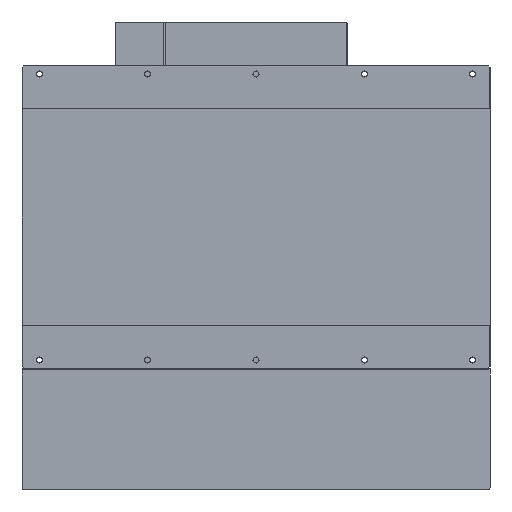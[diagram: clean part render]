
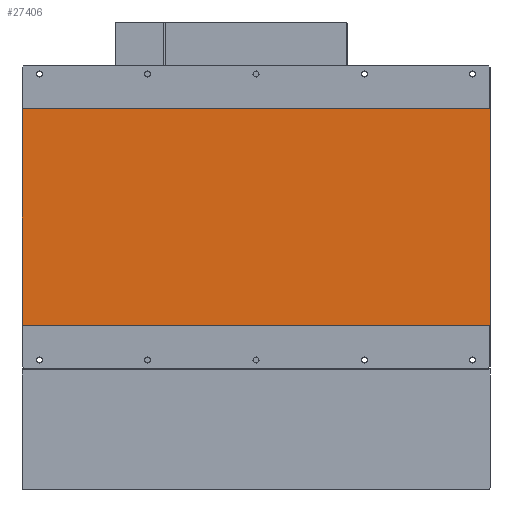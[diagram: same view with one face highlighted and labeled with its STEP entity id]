
A CAD part, front view. The second image highlights one B-rep face of the part: STEP entity #27406.
In plain terms, the highlighted planar face has unit normal (0, -1, 0).
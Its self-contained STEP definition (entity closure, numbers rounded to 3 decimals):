
#556 = VECTOR ( 'NONE', #50784, 1000. ) ;
#4224 = CARTESIAN_POINT ( 'NONE',  ( 540., 1., 250. ) ) ;
#4252 = CARTESIAN_POINT ( 'NONE',  ( 540., 1., -250. ) ) ;
#8934 = CARTESIAN_POINT ( 'NONE',  ( -540., 1., -250. ) ) ;
#11170 = CARTESIAN_POINT ( 'NONE',  ( -540., 1., 250. ) ) ;
#13841 = PLANE ( 'NONE',  #89957 ) ;
#16488 = LINE ( 'NONE', #4224, #31865 ) ;
#20190 = CARTESIAN_POINT ( 'NONE',  ( -540., 1., 250. ) ) ;
#22310 = EDGE_LOOP ( 'NONE', ( #26531, #77857, #84871, #59626 ) ) ;
#26531 = ORIENTED_EDGE ( 'NONE', *, *, #76239, .T. ) ;
#27406 = ADVANCED_FACE ( 'NONE', ( #78911 ), #13841, .F. ) ;
#28071 = LINE ( 'NONE', #11170, #75179 ) ;
#28174 = CARTESIAN_POINT ( 'NONE',  ( -540., 1., 250. ) ) ;
#31865 = VECTOR ( 'NONE', #67332, 1000. ) ;
#32288 = DIRECTION ( 'NONE',  ( 0., 0., 1. ) ) ;
#33989 = EDGE_CURVE ( 'NONE', #66377, #77340, #28071, .T. ) ;
#35729 = EDGE_CURVE ( 'NONE', #77340, #58677, #74813, .T. ) ;
#42949 = CARTESIAN_POINT ( 'NONE',  ( -540., 1., 250. ) ) ;
#49269 = DIRECTION ( 'NONE',  ( 0., 1., 0. ) ) ;
#49533 = VECTOR ( 'NONE', #70329, 1000. ) ;
#50784 = DIRECTION ( 'NONE',  ( 1., 0., 0. ) ) ;
#55383 = DIRECTION ( 'NONE',  ( 0., 0., 1. ) ) ;
#58677 = VERTEX_POINT ( 'NONE', #77753 ) ;
#59626 = ORIENTED_EDGE ( 'NONE', *, *, #90322, .T. ) ;
#62411 = VERTEX_POINT ( 'NONE', #4252 ) ;
#66377 = VERTEX_POINT ( 'NONE', #84539 ) ;
#67332 = DIRECTION ( 'NONE',  ( 0., 0., 1. ) ) ;
#70329 = DIRECTION ( 'NONE',  ( 1., 0., 0. ) ) ;
#70712 = LINE ( 'NONE', #8934, #556 ) ;
#74813 = LINE ( 'NONE', #20190, #49533 ) ;
#75179 = VECTOR ( 'NONE', #32288, 1000. ) ;
#76239 = EDGE_CURVE ( 'NONE', #62411, #58677, #16488, .T. ) ;
#77340 = VERTEX_POINT ( 'NONE', #42949 ) ;
#77753 = CARTESIAN_POINT ( 'NONE',  ( 540., 1., 250. ) ) ;
#77857 = ORIENTED_EDGE ( 'NONE', *, *, #35729, .F. ) ;
#78911 = FACE_OUTER_BOUND ( 'NONE', #22310, .T. ) ;
#84539 = CARTESIAN_POINT ( 'NONE',  ( -540., 1., -250. ) ) ;
#84871 = ORIENTED_EDGE ( 'NONE', *, *, #33989, .F. ) ;
#89957 = AXIS2_PLACEMENT_3D ( 'NONE', #28174, #49269, #55383 ) ;
#90322 = EDGE_CURVE ( 'NONE', #66377, #62411, #70712, .T. ) ;
